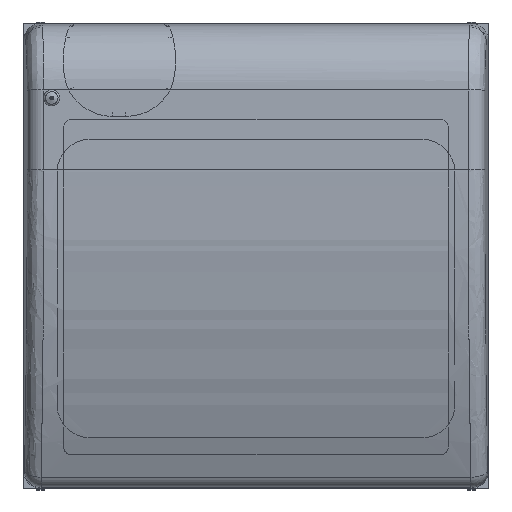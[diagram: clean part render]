
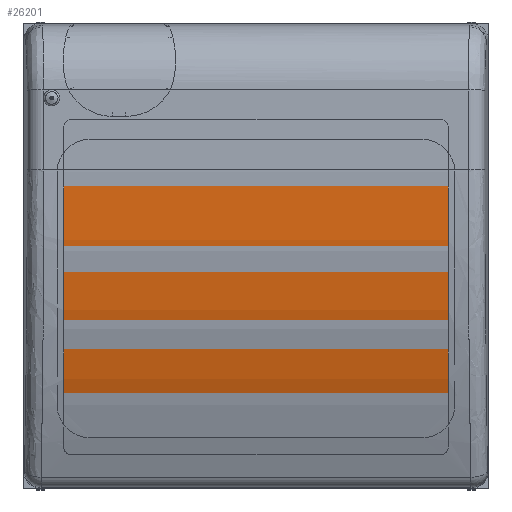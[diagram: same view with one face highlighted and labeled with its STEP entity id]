
A CAD part, top view. The second image highlights one B-rep face of the part: STEP entity #26201.
In plain terms, the highlighted cylindrical face has radius 75.819 mm (diameter 151.638 mm), a partial arc.
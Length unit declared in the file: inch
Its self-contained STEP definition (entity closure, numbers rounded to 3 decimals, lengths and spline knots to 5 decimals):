
#25581=CARTESIAN_POINT('',(-1.05787,1.51259,0.335));
#25582=VERTEX_POINT('',#25581);
#25591=CARTESIAN_POINT('',(0.39213,1.51259,0.335));
#25592=VERTEX_POINT('',#25591);
#25593=CARTESIAN_POINT('',(0.39213,1.51259,0.335));
#25594=DIRECTION('',(-1.0,0.0,0.0));
#25595=VECTOR('',#25594,1.45);
#25596=LINE('',#25593,#25595);
#25597=EDGE_CURVE('',#25592,#25582,#25596,.T.);
#26139=CARTESIAN_POINT('',(-1.20787,1.51259,-2.65));
#26140=DIRECTION('',(1.0,0.,0.0));
#26141=DIRECTION('',(0.,0.4,-0.917));
#26142=AXIS2_PLACEMENT_3D('',#26139,#26140,#26141);
#26143=CYLINDRICAL_SURFACE('',#26142,2.985);
#26144=CARTESIAN_POINT('',(0.39213,0.46963,0.14687));
#26145=VERTEX_POINT('',#26144);
#26146=CARTESIAN_POINT('',(0.39213,1.51259,-2.65));
#26147=DIRECTION('',(1.0,0.,0.));
#26148=DIRECTION('',(0.,0.4,-0.917));
#26149=AXIS2_PLACEMENT_3D('',#26146,#26147,#26148);
#26150=CIRCLE('',#26149,2.985);
#26151=EDGE_CURVE('',#25592,#26145,#26150,.T.);
#26152=ORIENTED_EDGE('',*,*,#26151,.F.);
#26153=ORIENTED_EDGE('',*,*,#25597,.T.);
#26154=CARTESIAN_POINT('',(-1.05787,0.46963,0.14687));
#26155=VERTEX_POINT('',#26154);
#26156=CARTESIAN_POINT('',(-1.05787,1.51259,-2.65));
#26157=DIRECTION('',(-1.0,0.,0.));
#26158=DIRECTION('',(0.,0.4,-0.917));
#26159=AXIS2_PLACEMENT_3D('',#26156,#26157,#26158);
#26160=CIRCLE('',#26159,2.985);
#26161=EDGE_CURVE('',#26155,#25582,#26160,.T.);
#26162=ORIENTED_EDGE('',*,*,#26161,.F.);
#26163=CARTESIAN_POINT('',(-1.02687,0.43863,0.13511));
#26164=VERTEX_POINT('',#26163);
#26165=CARTESIAN_POINT('',(-1.02687,0.43863,0.13511));
#26166=CARTESIAN_POINT('',(-1.03075,0.43863,0.13511));
#26167=CARTESIAN_POINT('',(-1.03487,0.43941,0.13541));
#26168=CARTESIAN_POINT('',(-1.0424,0.4425,0.1366));
#26169=CARTESIAN_POINT('',(-1.04582,0.44481,0.13749));
#26170=CARTESIAN_POINT('',(-1.05139,0.45024,0.13956));
#26171=CARTESIAN_POINT('',(-1.05385,0.45379,0.14091));
#26172=CARTESIAN_POINT('',(-1.05709,0.46153,0.14384));
#26173=CARTESIAN_POINT('',(-1.05787,0.46572,0.14541));
#26174=CARTESIAN_POINT('',(-1.05787,0.46963,0.14687));
#26175=B_SPLINE_CURVE_WITH_KNOTS('',3,(#26165,#26166,#26167,#26168,#26169,#26170,#26171,#26172,#26173,#26174),.UNSPECIFIED.,.F.,.U.,(4,2,2,2,4),(0.24534,0.27491,0.30448,0.3363,0.36812),.UNSPECIFIED.);
#26176=EDGE_CURVE('',#26164,#26155,#26175,.T.);
#26177=ORIENTED_EDGE('',*,*,#26176,.F.);
#26178=CARTESIAN_POINT('',(0.36113,0.43863,0.13511));
#26179=VERTEX_POINT('',#26178);
#26180=CARTESIAN_POINT('',(0.36113,0.43863,0.13511));
#26181=DIRECTION('',(-1.0,0.0,0.0));
#26182=VECTOR('',#26181,1.388);
#26183=LINE('',#26180,#26182);
#26184=EDGE_CURVE('',#26179,#26164,#26183,.T.);
#26185=ORIENTED_EDGE('',*,*,#26184,.F.);
#26186=CARTESIAN_POINT('',(0.39213,0.46963,0.14687));
#26187=CARTESIAN_POINT('',(0.39213,0.46572,0.14541));
#26188=CARTESIAN_POINT('',(0.39134,0.46153,0.14384));
#26189=CARTESIAN_POINT('',(0.3881,0.45379,0.14091));
#26190=CARTESIAN_POINT('',(0.38565,0.45024,0.13956));
#26191=CARTESIAN_POINT('',(0.38007,0.44481,0.13749));
#26192=CARTESIAN_POINT('',(0.37666,0.4425,0.1366));
#26193=CARTESIAN_POINT('',(0.36913,0.43941,0.13541));
#26194=CARTESIAN_POINT('',(0.36501,0.43863,0.13511));
#26195=CARTESIAN_POINT('',(0.36113,0.43863,0.13511));
#26196=B_SPLINE_CURVE_WITH_KNOTS('',3,(#26186,#26187,#26188,#26189,#26190,#26191,#26192,#26193,#26194,#26195),.UNSPECIFIED.,.F.,.U.,(4,2,2,2,4),(0.12255,0.15437,0.18619,0.21576,0.24534),.UNSPECIFIED.);
#26197=EDGE_CURVE('',#26145,#26179,#26196,.T.);
#26198=ORIENTED_EDGE('',*,*,#26197,.F.);
#26199=EDGE_LOOP('',(#26152,#26153,#26162,#26177,#26185,#26198));
#26200=FACE_OUTER_BOUND('',#26199,.T.);
#26201=ADVANCED_FACE('',(#26200),#26143,.T.);
